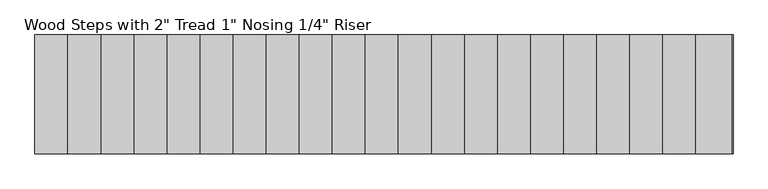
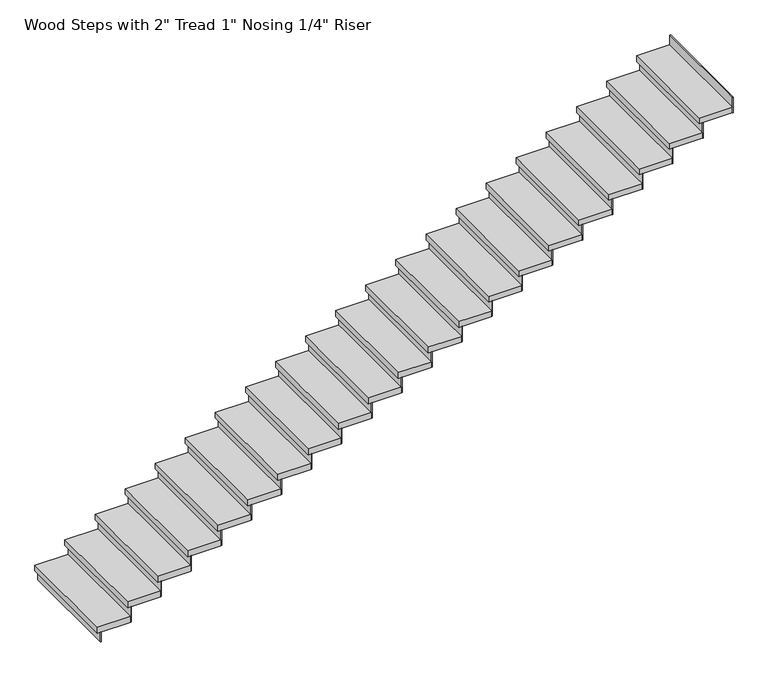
"""IFC4 building model written with IfcOpenShell, lengths in millimetres: stair flight geometry."""

from ifc_helpers import new_model, si_unit, frame, origin, origin_with_axes, place, context, project, spatial, polyline, outline, extrude, source, transform, mapped, element, save


def stair_flight_eed7713f(model_context):
    return source(origin(), model_context, "Body", "SweptSolid", [
        extrude(outline(polyline([(291.1854393, 14905.6177722), (284.8354393, 14905.6177722), (284.8354393, 15820.0177722), (291.1854393, 15820.0177722), (291.1854393, 14905.6177722)])), origin_with_axes(), (0.0, 0.0, 1.0), 87.7454545),
        extrude(outline(polyline([(538.8354393, 15820.0177722), (538.8354393, 14905.6177722), (259.4354393, 14905.6177722), (259.4354393, 15820.0177722), (538.8354393, 15820.0177722)])), frame((0.0, 0.0, 87.7454545), z_axis=(0.0, 0.0, 1.0), x_axis=(1.0, 0.0, 0.0)), (0.0, 0.0, 1.0), 50.8),
        extrude(outline(polyline([(545.1854393, 14905.6177722), (538.8354393, 14905.6177722), (538.8354393, 15820.0177722), (545.1854393, 15820.0177722), (545.1854393, 14905.6177722)])), frame((0.0, 0.0, 87.7454545), z_axis=(0.0, 0.0, 1.0), x_axis=(1.0, 0.0, 0.0)), (0.0, 0.0, 1.0), 138.5454545),
        extrude(outline(polyline([(792.8354393, 15820.0177722), (792.8354393, 14905.6177722), (513.4354393, 14905.6177722), (513.4354393, 15820.0177722), (792.8354393, 15820.0177722)])), frame((0.0, 0.0, 226.2909091), z_axis=(0.0, 0.0, 1.0), x_axis=(1.0, 0.0, 0.0)), (0.0, 0.0, 1.0), 50.8),
        extrude(outline(polyline([(799.1854393, 14905.6177722), (792.8354393, 14905.6177722), (792.8354393, 15820.0177722), (799.1854393, 15820.0177722), (799.1854393, 14905.6177722)])), frame((0.0, 0.0, 226.2909091), z_axis=(0.0, 0.0, 1.0), x_axis=(1.0, 0.0, 0.0)), (0.0, 0.0, 1.0), 138.5454545),
        extrude(outline(polyline([(1046.8354393, 15820.0177722), (1046.8354393, 14905.6177722), (767.4354393, 14905.6177722), (767.4354393, 15820.0177722), (1046.8354393, 15820.0177722)])), frame((0.0, 0.0, 364.8363636), z_axis=(0.0, 0.0, 1.0), x_axis=(1.0, 0.0, 0.0)), (0.0, 0.0, 1.0), 50.8),
        extrude(outline(polyline([(1053.1854393, 14905.6177722), (1046.8354393, 14905.6177722), (1046.8354393, 15820.0177722), (1053.1854393, 15820.0177722), (1053.1854393, 14905.6177722)])), frame((0.0, 0.0, 364.8363636), z_axis=(0.0, 0.0, 1.0), x_axis=(1.0, 0.0, 0.0)), (0.0, 0.0, 1.0), 138.5454545),
        extrude(outline(polyline([(1300.8354393, 15820.0177722), (1300.8354393, 14905.6177722), (1021.4354393, 14905.6177722), (1021.4354393, 15820.0177722), (1300.8354393, 15820.0177722)])), frame((0.0, 0.0, 503.3818182), z_axis=(0.0, 0.0, 1.0), x_axis=(1.0, 0.0, 0.0)), (0.0, 0.0, 1.0), 50.8),
        extrude(outline(polyline([(1307.1854393, 14905.6177722), (1300.8354393, 14905.6177722), (1300.8354393, 15820.0177722), (1307.1854393, 15820.0177722), (1307.1854393, 14905.6177722)])), frame((0.0, 0.0, 503.3818182), z_axis=(0.0, 0.0, 1.0), x_axis=(1.0, 0.0, 0.0)), (0.0, 0.0, 1.0), 138.5454545),
        extrude(outline(polyline([(1554.8354393, 15820.0177722), (1554.8354393, 14905.6177722), (1275.4354393, 14905.6177722), (1275.4354393, 15820.0177722), (1554.8354393, 15820.0177722)])), frame((0.0, 0.0, 641.9272727), z_axis=(0.0, 0.0, 1.0), x_axis=(1.0, 0.0, 0.0)), (0.0, 0.0, 1.0), 50.8),
        extrude(outline(polyline([(1561.1854393, 14905.6177722), (1554.8354393, 14905.6177722), (1554.8354393, 15820.0177722), (1561.1854393, 15820.0177722), (1561.1854393, 14905.6177722)])), frame((0.0, 0.0, 641.9272727), z_axis=(0.0, 0.0, 1.0), x_axis=(1.0, 0.0, 0.0)), (0.0, 0.0, 1.0), 138.5454545),
        extrude(outline(polyline([(1808.8354393, 15820.0177722), (1808.8354393, 14905.6177722), (1529.4354393, 14905.6177722), (1529.4354393, 15820.0177722), (1808.8354393, 15820.0177722)])), frame((0.0, 0.0, 780.4727273), z_axis=(0.0, 0.0, 1.0), x_axis=(1.0, 0.0, 0.0)), (0.0, 0.0, 1.0), 50.8),
        extrude(outline(polyline([(1815.1854393, 14905.6177722), (1808.8354393, 14905.6177722), (1808.8354393, 15820.0177722), (1815.1854393, 15820.0177722), (1815.1854393, 14905.6177722)])), frame((0.0, 0.0, 780.4727273), z_axis=(0.0, 0.0, 1.0), x_axis=(1.0, 0.0, 0.0)), (0.0, 0.0, 1.0), 138.5454545),
        extrude(outline(polyline([(2062.8354393, 15820.0177722), (2062.8354393, 14905.6177722), (1783.4354393, 14905.6177722), (1783.4354393, 15820.0177722), (2062.8354393, 15820.0177722)])), frame((0.0, 0.0, 919.0181818), z_axis=(0.0, 0.0, 1.0), x_axis=(1.0, 0.0, 0.0)), (0.0, 0.0, 1.0), 50.8),
        extrude(outline(polyline([(2069.1854393, 14905.6177722), (2062.8354393, 14905.6177722), (2062.8354393, 15820.0177722), (2069.1854393, 15820.0177722), (2069.1854393, 14905.6177722)])), frame((0.0, 0.0, 919.0181818), z_axis=(0.0, 0.0, 1.0), x_axis=(1.0, 0.0, 0.0)), (0.0, 0.0, 1.0), 138.5454545),
        extrude(outline(polyline([(2316.8354393, 15820.0177722), (2316.8354393, 14905.6177722), (2037.4354393, 14905.6177722), (2037.4354393, 15820.0177722), (2316.8354393, 15820.0177722)])), frame((0.0, 0.0, 1057.5636364), z_axis=(0.0, 0.0, 1.0), x_axis=(1.0, 0.0, 0.0)), (0.0, 0.0, 1.0), 50.8),
        extrude(outline(polyline([(2323.1854393, 14905.6177722), (2316.8354393, 14905.6177722), (2316.8354393, 15820.0177722), (2323.1854393, 15820.0177722), (2323.1854393, 14905.6177722)])), frame((0.0, 0.0, 1057.5636364), z_axis=(0.0, 0.0, 1.0), x_axis=(1.0, 0.0, 0.0)), (0.0, 0.0, 1.0), 138.5454545),
        extrude(outline(polyline([(2570.8354393, 15820.0177722), (2570.8354393, 14905.6177722), (2291.4354393, 14905.6177722), (2291.4354393, 15820.0177722), (2570.8354393, 15820.0177722)])), frame((0.0, 0.0, 1196.1090909), z_axis=(0.0, 0.0, 1.0), x_axis=(1.0, 0.0, 0.0)), (0.0, 0.0, 1.0), 50.8),
        extrude(outline(polyline([(2577.1854393, 14905.6177722), (2570.8354393, 14905.6177722), (2570.8354393, 15820.0177722), (2577.1854393, 15820.0177722), (2577.1854393, 14905.6177722)])), frame((0.0, 0.0, 1196.1090909), z_axis=(0.0, 0.0, 1.0), x_axis=(1.0, 0.0, 0.0)), (0.0, 0.0, 1.0), 138.5454545),
        extrude(outline(polyline([(2824.8354393, 15820.0177722), (2824.8354393, 14905.6177722), (2545.4354393, 14905.6177722), (2545.4354393, 15820.0177722), (2824.8354393, 15820.0177722)])), frame((0.0, 0.0, 1334.6545455), z_axis=(0.0, 0.0, 1.0), x_axis=(1.0, 0.0, 0.0)), (0.0, 0.0, 1.0), 50.8),
        extrude(outline(polyline([(2831.1854393, 14905.6177722), (2824.8354393, 14905.6177722), (2824.8354393, 15820.0177722), (2831.1854393, 15820.0177722), (2831.1854393, 14905.6177722)])), frame((0.0, 0.0, 1334.6545455), z_axis=(0.0, 0.0, 1.0), x_axis=(1.0, 0.0, 0.0)), (0.0, 0.0, 1.0), 138.5454545),
        extrude(outline(polyline([(3078.8354393, 15820.0177722), (3078.8354393, 14905.6177722), (2799.4354393, 14905.6177722), (2799.4354393, 15820.0177722), (3078.8354393, 15820.0177722)])), frame((0.0, 0.0, 1473.2), z_axis=(0.0, 0.0, 1.0), x_axis=(1.0, 0.0, 0.0)), (0.0, 0.0, 1.0), 50.8),
        extrude(outline(polyline([(3085.1854393, 14905.6177722), (3078.8354393, 14905.6177722), (3078.8354393, 15820.0177722), (3085.1854393, 15820.0177722), (3085.1854393, 14905.6177722)])), frame((0.0, 0.0, 1473.2), z_axis=(0.0, 0.0, 1.0), x_axis=(1.0, 0.0, 0.0)), (0.0, 0.0, 1.0), 138.5454545),
        extrude(outline(polyline([(3332.8354393, 15820.0177722), (3332.8354393, 14905.6177722), (3053.4354393, 14905.6177722), (3053.4354393, 15820.0177722), (3332.8354393, 15820.0177722)])), frame((0.0, 0.0, 1611.7454545), z_axis=(0.0, 0.0, 1.0), x_axis=(1.0, 0.0, 0.0)), (0.0, 0.0, 1.0), 50.8),
        extrude(outline(polyline([(3339.1854393, 14905.6177722), (3332.8354393, 14905.6177722), (3332.8354393, 15820.0177722), (3339.1854393, 15820.0177722), (3339.1854393, 14905.6177722)])), frame((0.0, 0.0, 1611.7454545), z_axis=(0.0, 0.0, 1.0), x_axis=(1.0, 0.0, 0.0)), (0.0, 0.0, 1.0), 138.5454545),
        extrude(outline(polyline([(3586.8354393, 15820.0177722), (3586.8354393, 14905.6177722), (3307.4354393, 14905.6177722), (3307.4354393, 15820.0177722), (3586.8354393, 15820.0177722)])), frame((0.0, 0.0, 1750.2909091), z_axis=(0.0, 0.0, 1.0), x_axis=(1.0, 0.0, 0.0)), (0.0, 0.0, 1.0), 50.8),
        extrude(outline(polyline([(3593.1854393, 14905.6177722), (3586.8354393, 14905.6177722), (3586.8354393, 15820.0177722), (3593.1854393, 15820.0177722), (3593.1854393, 14905.6177722)])), frame((0.0, 0.0, 1750.2909091), z_axis=(0.0, 0.0, 1.0), x_axis=(1.0, 0.0, 0.0)), (0.0, 0.0, 1.0), 138.5454545),
        extrude(outline(polyline([(3840.8354393, 15820.0177722), (3840.8354393, 14905.6177722), (3561.4354393, 14905.6177722), (3561.4354393, 15820.0177722), (3840.8354393, 15820.0177722)])), frame((0.0, 0.0, 1888.8363636), z_axis=(0.0, 0.0, 1.0), x_axis=(1.0, 0.0, 0.0)), (0.0, 0.0, 1.0), 50.8),
        extrude(outline(polyline([(3847.1854393, 14905.6177722), (3840.8354393, 14905.6177722), (3840.8354393, 15820.0177722), (3847.1854393, 15820.0177722), (3847.1854393, 14905.6177722)])), frame((0.0, 0.0, 1888.8363636), z_axis=(0.0, 0.0, 1.0), x_axis=(1.0, 0.0, 0.0)), (0.0, 0.0, 1.0), 138.5454545),
        extrude(outline(polyline([(4094.8354393, 15820.0177722), (4094.8354393, 14905.6177722), (3815.4354393, 14905.6177722), (3815.4354393, 15820.0177722), (4094.8354393, 15820.0177722)])), frame((0.0, 0.0, 2027.3818182), z_axis=(0.0, 0.0, 1.0), x_axis=(1.0, 0.0, 0.0)), (0.0, 0.0, 1.0), 50.8),
        extrude(outline(polyline([(4101.1854393, 14905.6177722), (4094.8354393, 14905.6177722), (4094.8354393, 15820.0177722), (4101.1854393, 15820.0177722), (4101.1854393, 14905.6177722)])), frame((0.0, 0.0, 2027.3818182), z_axis=(0.0, 0.0, 1.0), x_axis=(1.0, 0.0, 0.0)), (0.0, 0.0, 1.0), 138.5454545),
        extrude(outline(polyline([(4348.8354393, 15820.0177722), (4348.8354393, 14905.6177722), (4069.4354393, 14905.6177722), (4069.4354393, 15820.0177722), (4348.8354393, 15820.0177722)])), frame((0.0, 0.0, 2165.9272727), z_axis=(0.0, 0.0, 1.0), x_axis=(1.0, 0.0, 0.0)), (0.0, 0.0, 1.0), 50.8),
        extrude(outline(polyline([(4355.1854393, 14905.6177722), (4348.8354393, 14905.6177722), (4348.8354393, 15820.0177722), (4355.1854393, 15820.0177722), (4355.1854393, 14905.6177722)])), frame((0.0, 0.0, 2165.9272727), z_axis=(0.0, 0.0, 1.0), x_axis=(1.0, 0.0, 0.0)), (0.0, 0.0, 1.0), 138.5454545),
        extrude(outline(polyline([(4602.8354393, 15820.0177722), (4602.8354393, 14905.6177722), (4323.4354393, 14905.6177722), (4323.4354393, 15820.0177722), (4602.8354393, 15820.0177722)])), frame((0.0, 0.0, 2304.4727273), z_axis=(0.0, 0.0, 1.0), x_axis=(1.0, 0.0, 0.0)), (0.0, 0.0, 1.0), 50.8),
        extrude(outline(polyline([(4609.1854393, 14905.6177722), (4602.8354393, 14905.6177722), (4602.8354393, 15820.0177722), (4609.1854393, 15820.0177722), (4609.1854393, 14905.6177722)])), frame((0.0, 0.0, 2304.4727273), z_axis=(0.0, 0.0, 1.0), x_axis=(1.0, 0.0, 0.0)), (0.0, 0.0, 1.0), 138.5454545),
        extrude(outline(polyline([(4856.8354393, 15820.0177722), (4856.8354393, 14905.6177722), (4577.4354393, 14905.6177722), (4577.4354393, 15820.0177722), (4856.8354393, 15820.0177722)])), frame((0.0, 0.0, 2443.0181818), z_axis=(0.0, 0.0, 1.0), x_axis=(1.0, 0.0, 0.0)), (0.0, 0.0, 1.0), 50.8),
        extrude(outline(polyline([(4863.1854393, 14905.6177722), (4856.8354393, 14905.6177722), (4856.8354393, 15820.0177722), (4863.1854393, 15820.0177722), (4863.1854393, 14905.6177722)])), frame((0.0, 0.0, 2443.0181818), z_axis=(0.0, 0.0, 1.0), x_axis=(1.0, 0.0, 0.0)), (0.0, 0.0, 1.0), 138.5454545),
        extrude(outline(polyline([(5110.8354393, 15820.0177722), (5110.8354393, 14905.6177722), (4831.4354393, 14905.6177722), (4831.4354393, 15820.0177722), (5110.8354393, 15820.0177722)])), frame((0.0, 0.0, 2581.5636364), z_axis=(0.0, 0.0, 1.0), x_axis=(1.0, 0.0, 0.0)), (0.0, 0.0, 1.0), 50.8),
        extrude(outline(polyline([(5117.1854393, 14905.6177722), (5110.8354393, 14905.6177722), (5110.8354393, 15820.0177722), (5117.1854393, 15820.0177722), (5117.1854393, 14905.6177722)])), frame((0.0, 0.0, 2581.5636364), z_axis=(0.0, 0.0, 1.0), x_axis=(1.0, 0.0, 0.0)), (0.0, 0.0, 1.0), 138.5454545),
        extrude(outline(polyline([(5364.8354393, 15820.0177722), (5364.8354393, 14905.6177722), (5085.4354393, 14905.6177722), (5085.4354393, 15820.0177722), (5364.8354393, 15820.0177722)])), frame((0.0, 0.0, 2720.1090909), z_axis=(0.0, 0.0, 1.0), x_axis=(1.0, 0.0, 0.0)), (0.0, 0.0, 1.0), 50.8),
        extrude(outline(polyline([(5371.1854393, 14905.6177722), (5364.8354393, 14905.6177722), (5364.8354393, 15820.0177722), (5371.1854393, 15820.0177722), (5371.1854393, 14905.6177722)])), frame((0.0, 0.0, 2720.1090909), z_axis=(0.0, 0.0, 1.0), x_axis=(1.0, 0.0, 0.0)), (0.0, 0.0, 1.0), 138.5454545),
        extrude(outline(polyline([(5625.1854393, 14905.6177722), (5618.8354393, 14905.6177722), (5618.8354393, 15820.0177722), (5625.1854393, 15820.0177722), (5625.1854393, 14905.6177722)])), frame((0.0, 0.0, 2858.6545455), z_axis=(0.0, 0.0, 1.0), x_axis=(1.0, 0.0, 0.0)), (0.0, 0.0, 1.0), 138.5454545),
        extrude(outline(polyline([(5618.8354393, 15820.0177722), (5618.8354393, 14905.6177722), (5339.4354393, 14905.6177722), (5339.4354393, 15820.0177722), (5618.8354393, 15820.0177722)])), frame((0.0, 0.0, 2858.6545455), z_axis=(0.0, 0.0, 1.0), x_axis=(1.0, 0.0, 0.0)), (0.0, 0.0, 1.0), 50.8),
    ])


if __name__ == "__main__":
    model = new_model("IFC4")
    model_context = context("Model", 3, world=origin())
    ifc_project = project(units=[si_unit("LENGTHUNIT", "METRE", prefix="MILLI")], contexts=[model_context])
    site = spatial("IfcSite", under=ifc_project)
    building = spatial("IfcBuilding", under=site)
    placement = place(None, origin())
    stair_flight_shape = stair_flight_eed7713f(model_context)
    element("IfcStairFlight", 1, ObjectType="Wood Steps with 2\" Tread 1\" Nosing 1/4\" Riser", at=placement, inside=building, context=model_context, shape_type="MappedRepresentation", body=[
        mapped(stair_flight_shape, transform((0.0, 0.0, 0.0), x_axis=(1.0, 0.0, 0.0), y_axis=(0.0, 1.0, 0.0), z_axis=(0.0, 0.0, 1.0))),
    ])
    save(model, "model.ifc")
